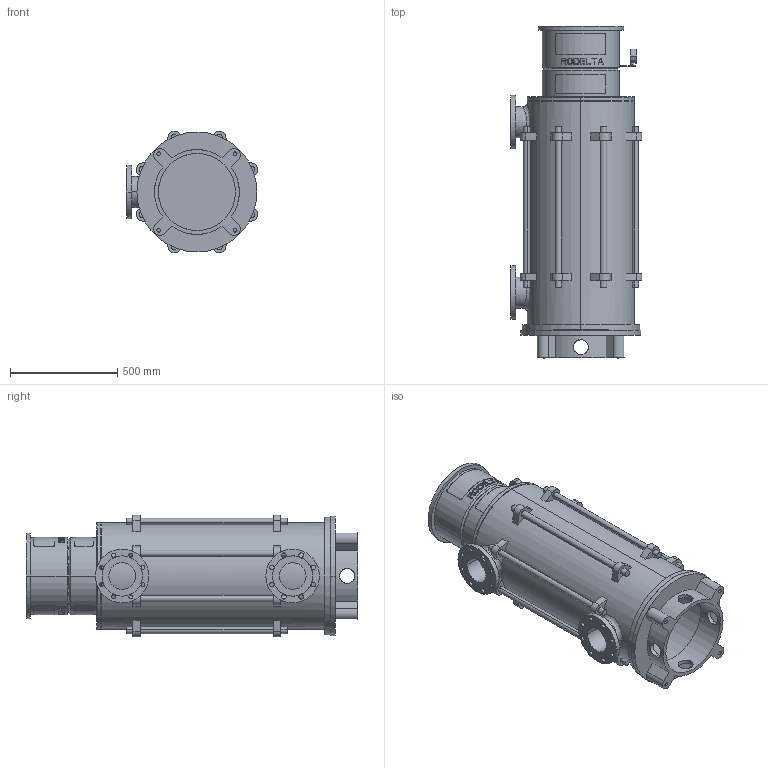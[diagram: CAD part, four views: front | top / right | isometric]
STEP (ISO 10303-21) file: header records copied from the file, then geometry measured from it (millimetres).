
FILE_DESCRIPTION((''),'2;1');
FILE_NAME('LS5_6TR_0GR_TOT_30KW','2023-08-08T',('Lyritlocal'),(''),'PRO/ENGINEER BY PARAMETRIC TECHNOLOGY CORPORATION, 2016360','PRO/ENGINEER BY PARAMETRIC TECHNOLOGY CORPORATION, 2016360','');
FILE_SCHEMA(('CONFIG_CONTROL_DESIGN'));
Length unit declared in the file: millimetre
Products named in the file (1): LS5_6TR_0GR_TOT_30KW
Bounding box: 614.04 x 1550 x 568.08 mm (x, y, z)
Volume: 42740442.9 mm3; surface area: 6335303 mm2
Topology: 3 solids, 7 shells, 672 faces, 1747 edges, 1158 vertices
Faces by surface type: plane 414, cylinder 242, cone 12, bspline 4
Entity records: 21885 total; most frequent: CARTESIAN_POINT 5441, ORIENTED_EDGE 3478, DIRECTION 3269, EDGE_CURVE 1747, AXIS2_PLACEMENT_3D 1241, VERTEX_POINT 1158, EDGE_LOOP 809, VECTOR 787
